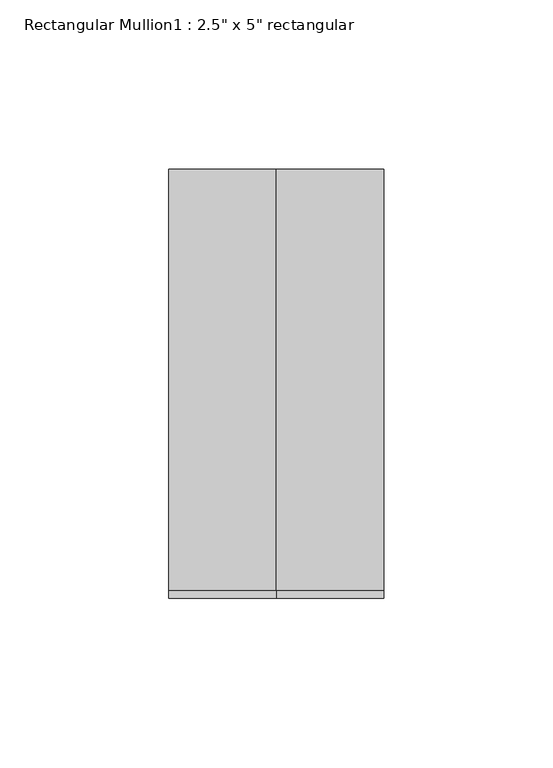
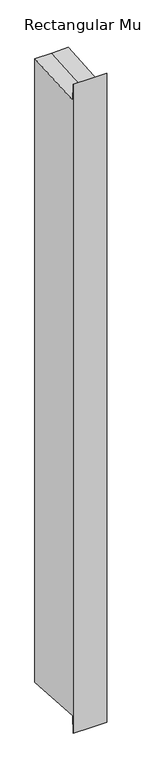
"""IFC4 building model written with IfcOpenShell, lengths in millimetres: member geometry."""

from ifc_helpers import new_model, si_unit, origin, place, context, project, spatial, faceted_brep, source, transform, mapped, element, save


def member_9c235780(model_context):
    return source(origin(), model_context, "Body", "Brep", [
        faceted_brep([(-31.75, 63.5, 4.2249441), (0.0, 63.5, 4.2249441), (31.75, 63.5, 4.2249441), (31.75, 63.5, -1253.4859011), (0.0, 63.5, -1253.4859011), (-31.75, 63.5, -1253.4859011), (-31.75, -63.5, 29.6036678), (-31.75, -61.2111885, -4.2153013), (-31.75, -61.2111885, -1245.0456557), (-31.75, -63.5, -1278.8646248), (31.75, -63.5, 29.6036678), (0.0, -63.5, 29.6036678), (0.0, -63.5, -1278.8646248), (31.75, -63.5, -1278.8646248), (31.75, -61.2111885, -4.2153013), (31.75, -61.2111885, -1245.0456557), (0.0, -61.2111885, -4.2153013), (0.0, -61.2111885, -1245.0456557)], [[[0, 1, 2, 3, 4, 5]], [[6, 7, 0, 5, 8, 9]], [[10, 11, 6, 9, 12, 13]], [[2, 14, 10, 13, 15, 3]], [[2, 1, 16, 14]], [[1, 0, 7, 16]], [[7, 6, 11, 16]], [[11, 10, 14, 16]], [[3, 15, 17, 4]], [[15, 13, 12, 17]], [[12, 9, 8, 17]], [[8, 5, 4, 17]]]),
    ])


if __name__ == "__main__":
    model = new_model("IFC4")
    model_context = context("Model", 3, world=origin())
    ifc_project = project(units=[si_unit("LENGTHUNIT", "METRE", prefix="MILLI")], contexts=[model_context])
    site = spatial("IfcSite", under=ifc_project)
    building = spatial("IfcBuilding", under=site)
    placement = place(None, origin())
    member_shape = member_9c235780(model_context)
    element("IfcMember", 1, ObjectType="Rectangular Mullion1 : 2.5\" x 5\" rectangular", at=placement, inside=building, context=model_context, shape_type="MappedRepresentation", body=[
        mapped(member_shape, transform((0.0, 0.0, 0.0), x_axis=(1.0, 0.0, 0.0), y_axis=(0.0, 1.0, 0.0), z_axis=(0.0, 0.0, 1.0))),
    ])
    save(model, "model.ifc")
